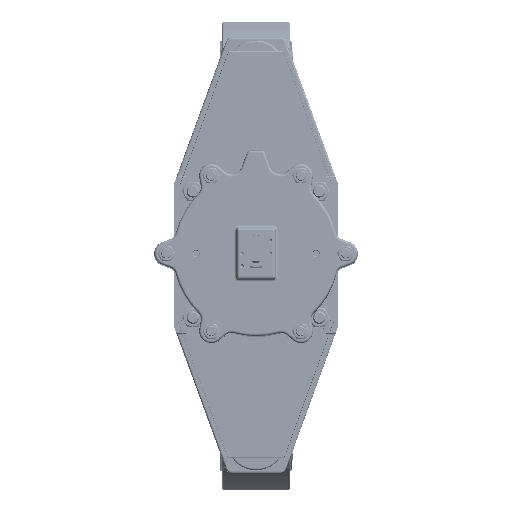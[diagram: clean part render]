
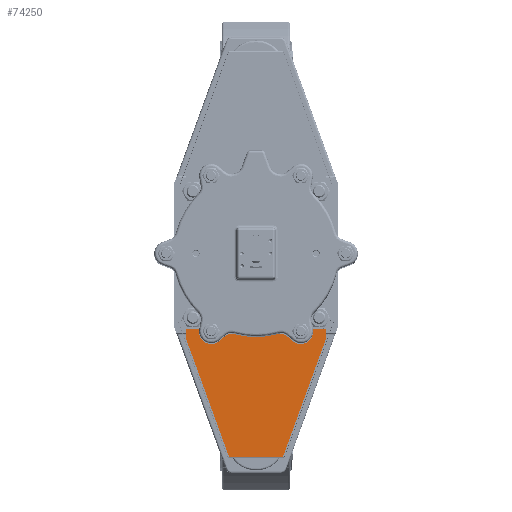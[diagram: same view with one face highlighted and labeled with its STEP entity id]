
A CAD part, top view. The second image highlights one B-rep face of the part: STEP entity #74250.
In plain terms, the highlighted planar face has unit normal (0, 0, 1).
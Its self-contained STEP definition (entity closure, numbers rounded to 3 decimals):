
#5864=LINE('',#137123,#10300);
#5869=LINE('',#137133,#10305);
#5872=LINE('',#137139,#10308);
#5875=LINE('',#137145,#10311);
#5878=LINE('',#137151,#10314);
#5883=LINE('',#137160,#10319);
#10300=VECTOR('',#98206,10.);
#10305=VECTOR('',#98213,10.);
#10308=VECTOR('',#98218,10.);
#10311=VECTOR('',#98223,10.);
#10314=VECTOR('',#98228,10.);
#10319=VECTOR('',#98237,10.);
#16734=FACE_OUTER_BOUND('',#21311,.T.);
#21311=EDGE_LOOP('',(#58903,#58904,#58905,#58906,#58907,#58908));
#33019=VERTEX_POINT('',#137121);
#33020=VERTEX_POINT('',#137122);
#33024=VERTEX_POINT('',#137132);
#33026=VERTEX_POINT('',#137138);
#33028=VERTEX_POINT('',#137144);
#33030=VERTEX_POINT('',#137150);
#42408=EDGE_CURVE('',#33019,#33020,#5864,.T.);
#42413=EDGE_CURVE('',#33020,#33024,#5869,.T.);
#42416=EDGE_CURVE('',#33024,#33026,#5872,.T.);
#42419=EDGE_CURVE('',#33026,#33028,#5875,.T.);
#42422=EDGE_CURVE('',#33028,#33030,#5878,.T.);
#42427=EDGE_CURVE('',#33030,#33019,#5883,.T.);
#58903=ORIENTED_EDGE('',*,*,#42427,.F.);
#58904=ORIENTED_EDGE('',*,*,#42422,.F.);
#58905=ORIENTED_EDGE('',*,*,#42419,.F.);
#58906=ORIENTED_EDGE('',*,*,#42416,.F.);
#58907=ORIENTED_EDGE('',*,*,#42413,.F.);
#58908=ORIENTED_EDGE('',*,*,#42408,.F.);
#71092=PLANE('',#81550);
#74250=ADVANCED_FACE('',(#16734),#71092,.F.);
#81550=AXIS2_PLACEMENT_3D('',#137159,#98235,#98236);
#98206=DIRECTION('',(-0.342,0.94,0.));
#98213=DIRECTION('',(0.,1.,0.));
#98218=DIRECTION('',(1.,0.,0.));
#98223=DIRECTION('',(0.,-1.,0.));
#98228=DIRECTION('',(-0.342,-0.94,0.));
#98235=DIRECTION('center_axis',(0.,0.,
-1.));
#98236=DIRECTION('ref_axis',(0.,-1.,0.));
#98237=DIRECTION('',(-1.,0.,0.));
#137121=CARTESIAN_POINT('',(-42.828,-319.846,1369.7));
#137122=CARTESIAN_POINT('',(-111.,-132.546,1369.7));
#137123=CARTESIAN_POINT('',(-111.,-132.546,1369.7));
#137132=CARTESIAN_POINT('',(-111.,-116.546,1369.7));
#137133=CARTESIAN_POINT('',(-111.,-116.546,1369.7));
#137138=CARTESIAN_POINT('',(111.,-116.546,1369.7));
#137139=CARTESIAN_POINT('',(111.,-116.546,1369.7));
#137144=CARTESIAN_POINT('',(111.,-132.546,1369.7));
#137145=CARTESIAN_POINT('',(111.,-132.546,1369.7));
#137150=CARTESIAN_POINT('',(42.828,-319.846,1369.7));
#137151=CARTESIAN_POINT('',(42.828,-319.846,1369.7));
#137159=CARTESIAN_POINT('Origin',(0.,-199.684,
1369.7));
#137160=CARTESIAN_POINT('',(-42.828,-319.846,1369.7));
